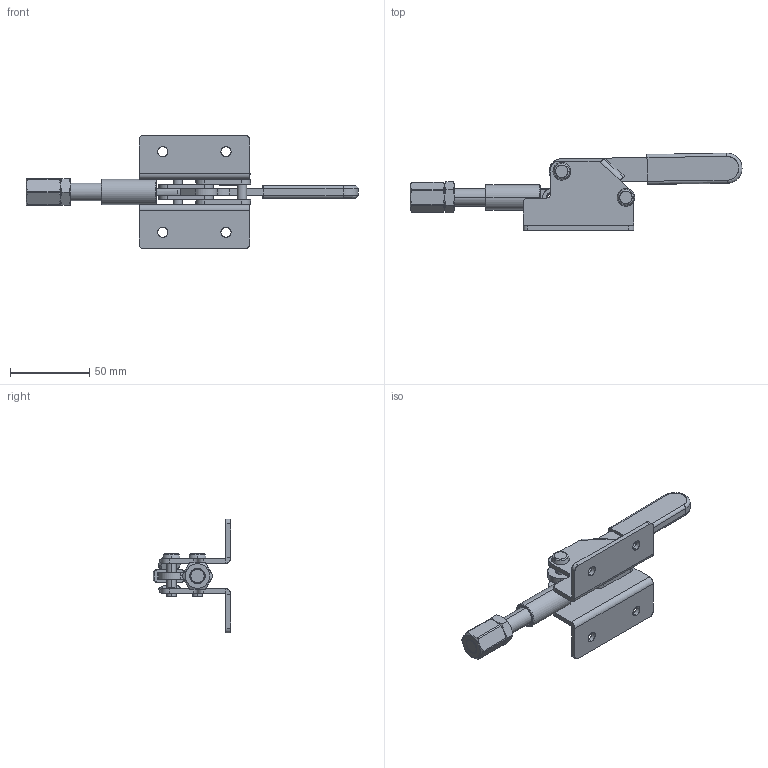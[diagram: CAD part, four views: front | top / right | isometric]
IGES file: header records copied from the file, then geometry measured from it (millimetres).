
Start section: SolidWorks IGES file using analytic representation for surfaces
Global section: file name: \\BARTOP_SV6\share\SOLIDWORKS\工具事業部\坂入用\Toggle clamp\ISK-51BX小0\ISK-51BX小0.IGS; native system: SolidWorks 2016; preprocessor: SolidWorks 2016; author: SOLID02; date: 160229.180352; units: millimetre
Bounding box: 209.98 x 48.93 x 72 mm (x, y, z)
Surface area: 44317.5 mm2 (no closed solid volume)
Topology: 0 solids, 0 shells, 281 faces, 4306 edges, 4302 vertices
Faces by surface type: revolution 160, bspline 121
